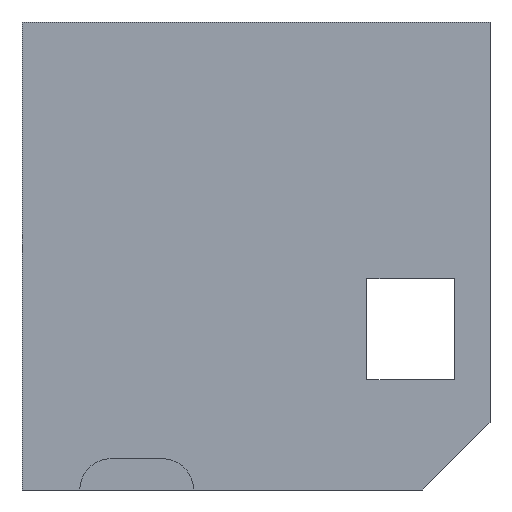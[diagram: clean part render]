
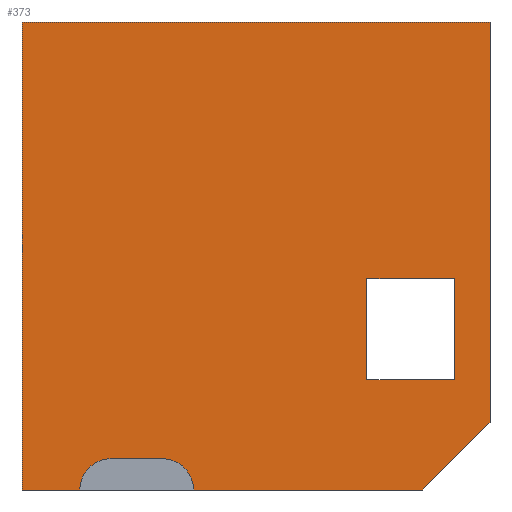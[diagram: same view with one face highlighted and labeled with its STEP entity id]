
A CAD part, left-side view. The second image highlights one B-rep face of the part: STEP entity #373.
In plain terms, the highlighted planar face has unit normal (-1, 0, 0).
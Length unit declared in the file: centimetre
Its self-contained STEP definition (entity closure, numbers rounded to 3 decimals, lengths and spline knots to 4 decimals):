
#5 = VERTEX_POINT ( 'NONE', #196 ) ;
#19 = DIRECTION ( 'NONE',  ( 0., 1., 0. ) ) ;
#41 = CARTESIAN_POINT ( 'NONE',  ( 0., 263.0807, 235.1883 ) ) ;
#42 = FACE_OUTER_BOUND ( 'NONE', #272, .T. ) ;
#53 = DIRECTION ( 'NONE',  ( 1., 0., 0. ) ) ;
#84 = ORIENTED_EDGE ( 'NONE', *, *, #478, .T. ) ;
#85 = EDGE_CURVE ( 'NONE', #537, #5, #955, .T. ) ;
#87 = VECTOR ( 'NONE', #398, 100. ) ;
#95 = ORIENTED_EDGE ( 'NONE', *, *, #171, .F. ) ;
#104 = ORIENTED_EDGE ( 'NONE', *, *, #252, .F. ) ;
#112 = VECTOR ( 'NONE', #1007, 100. ) ;
#124 = CARTESIAN_POINT ( 'NONE',  ( 0., 1000., 1000. ) ) ;
#155 = CARTESIAN_POINT ( 'NONE',  ( 0., 75.3041, 451.8279 ) ) ;
#156 = DIRECTION ( 'NONE',  ( 0., -1., 0. ) ) ;
#160 = ORIENTED_EDGE ( 'NONE', *, *, #446, .F. ) ;
#171 = EDGE_CURVE ( 'NONE', #759, #376, #717, .T. ) ;
#173 = VERTEX_POINT ( 'NONE', #640 ) ;
#196 = CARTESIAN_POINT ( 'NONE',  ( 0., 809.6023, 66.9636 ) ) ;
#203 = AXIS2_PLACEMENT_3D ( 'NONE', #744, #53, #402 ) ;
#215 = DIRECTION ( 'NONE',  ( 0., 0., -1. ) ) ;
#225 = VECTOR ( 'NONE', #264, 100. ) ;
#232 = LINE ( 'NONE', #124, #983 ) ;
#235 = EDGE_CURVE ( 'NONE', #439, #537, #319, .T. ) ;
#248 = LINE ( 'NONE', #587, #1017 ) ;
#252 = EDGE_CURVE ( 'NONE', #5, #490, #785, .T. ) ;
#264 = DIRECTION ( 'NONE',  ( 0., 1., 0. ) ) ;
#272 = EDGE_LOOP ( 'NONE', ( #1041, #359, #1124, #84, #95, #160, #755, #913, #104 ) ) ;
#298 = EDGE_CURVE ( 'NONE', #439, #403, #563, .T. ) ;
#318 = PLANE ( 'NONE',  #203 ) ;
#319 = CIRCLE ( 'NONE', #775, 66.9636 ) ;
#322 = CARTESIAN_POINT ( 'NONE',  ( 0., 0., 1000. ) ) ;
#329 = EDGE_CURVE ( 'NONE', #863, #407, #232, .T. ) ;
#337 = LINE ( 'NONE', #1118, #630 ) ;
#356 = EDGE_LOOP ( 'NONE', ( #605, #379, #425, #939 ) ) ;
#359 = ORIENTED_EDGE ( 'NONE', *, *, #235, .F. ) ;
#373 = ADVANCED_FACE ( 'NONE', ( #474, #42 ), #318, .F. ) ;
#376 = VERTEX_POINT ( 'NONE', #1094 ) ;
#378 = CARTESIAN_POINT ( 'NONE',  ( 0., 700.3897, 0. ) ) ;
#379 = ORIENTED_EDGE ( 'NONE', *, *, #1043, .F. ) ;
#388 = LINE ( 'NONE', #393, #702 ) ;
#390 = CARTESIAN_POINT ( 'NONE',  ( 0., 809.6023, 0. ) ) ;
#393 = CARTESIAN_POINT ( 'NONE',  ( 0., 75.3041, 235.1883 ) ) ;
#394 = EDGE_CURVE ( 'NONE', #407, #490, #248, .T. ) ;
#398 = DIRECTION ( 'NONE',  ( 0., 0., -1. ) ) ;
#401 = VECTOR ( 'NONE', #815, 100. ) ;
#402 = DIRECTION ( 'NONE',  ( 0., 0., -1. ) ) ;
#403 = VERTEX_POINT ( 'NONE', #676 ) ;
#407 = VERTEX_POINT ( 'NONE', #595 ) ;
#416 = LINE ( 'NONE', #771, #651 ) ;
#425 = ORIENTED_EDGE ( 'NONE', *, *, #674, .F. ) ;
#439 = VERTEX_POINT ( 'NONE', #936 ) ;
#446 = EDGE_CURVE ( 'NONE', #863, #759, #337, .T. ) ;
#465 = DIRECTION ( 'NONE',  ( 0., 0., -1. ) ) ;
#474 = FACE_BOUND ( 'NONE', #356, .T. ) ;
#478 = EDGE_CURVE ( 'NONE', #403, #376, #416, .T. ) ;
#490 = VERTEX_POINT ( 'NONE', #940 ) ;
#514 = CARTESIAN_POINT ( 'NONE',  ( 0., 75.3041, 235.1883 ) ) ;
#537 = VERTEX_POINT ( 'NONE', #711 ) ;
#540 = EDGE_CURVE ( 'NONE', #669, #899, #643, .T. ) ;
#563 = LINE ( 'NONE', #726, #112 ) ;
#587 = CARTESIAN_POINT ( 'NONE',  ( 0., 1000., 0. ) ) ;
#595 = CARTESIAN_POINT ( 'NONE',  ( 0., 1000., 0. ) ) ;
#605 = ORIENTED_EDGE ( 'NONE', *, *, #704, .F. ) ;
#628 = CARTESIAN_POINT ( 'NONE',  ( 0., 0., 1000. ) ) ;
#630 = VECTOR ( 'NONE', #683, 100. ) ;
#640 = CARTESIAN_POINT ( 'NONE',  ( 0., 263.0807, 235.1883 ) ) ;
#642 = DIRECTION ( 'NONE',  ( 0., -1., 0. ) ) ;
#643 = LINE ( 'NONE', #1067, #821 ) ;
#651 = VECTOR ( 'NONE', #681, 100. ) ;
#653 = DIRECTION ( 'NONE',  ( 0., 0., 1. ) ) ;
#661 = LINE ( 'NONE', #41, #87 ) ;
#669 = VERTEX_POINT ( 'NONE', #155 ) ;
#674 = EDGE_CURVE ( 'NONE', #899, #173, #661, .T. ) ;
#676 = CARTESIAN_POINT ( 'NONE',  ( 0., 143.3258, 0. ) ) ;
#681 = DIRECTION ( 'NONE',  ( 0., -0.707, 0.707 ) ) ;
#683 = DIRECTION ( 'NONE',  ( 0., -1., 0. ) ) ;
#694 = CARTESIAN_POINT ( 'NONE',  ( 0., 809.6023, 66.9636 ) ) ;
#702 = VECTOR ( 'NONE', #653, 100. ) ;
#704 = EDGE_CURVE ( 'NONE', #890, #669, #388, .T. ) ;
#711 = CARTESIAN_POINT ( 'NONE',  ( 0., 700.3897, 66.9636 ) ) ;
#717 = LINE ( 'NONE', #628, #401 ) ;
#726 = CARTESIAN_POINT ( 'NONE',  ( 0., 1000., 0. ) ) ;
#744 = CARTESIAN_POINT ( 'NONE',  ( 0., 1000., 1000. ) ) ;
#755 = ORIENTED_EDGE ( 'NONE', *, *, #329, .T. ) ;
#759 = VERTEX_POINT ( 'NONE', #322 ) ;
#771 = CARTESIAN_POINT ( 'NONE',  ( 0., 0., 143.3258 ) ) ;
#775 = AXIS2_PLACEMENT_3D ( 'NONE', #378, #907, #820 ) ;
#785 = CIRCLE ( 'NONE', #964, 66.9636 ) ;
#786 = VECTOR ( 'NONE', #642, 100. ) ;
#815 = DIRECTION ( 'NONE',  ( 0., 0., -1. ) ) ;
#820 = DIRECTION ( 'NONE',  ( 0., 0., -1. ) ) ;
#821 = VECTOR ( 'NONE', #19, 100. ) ;
#837 = DIRECTION ( 'NONE',  ( -1., 0., 0. ) ) ;
#863 = VERTEX_POINT ( 'NONE', #938 ) ;
#890 = VERTEX_POINT ( 'NONE', #514 ) ;
#898 = LINE ( 'NONE', #968, #786 ) ;
#899 = VERTEX_POINT ( 'NONE', #943 ) ;
#907 = DIRECTION ( 'NONE',  ( -1., 0., 0. ) ) ;
#913 = ORIENTED_EDGE ( 'NONE', *, *, #394, .T. ) ;
#936 = CARTESIAN_POINT ( 'NONE',  ( 0., 633.4261, 0. ) ) ;
#938 = CARTESIAN_POINT ( 'NONE',  ( 0., 1000., 1000. ) ) ;
#939 = ORIENTED_EDGE ( 'NONE', *, *, #540, .F. ) ;
#940 = CARTESIAN_POINT ( 'NONE',  ( 0., 876.5659, 0. ) ) ;
#943 = CARTESIAN_POINT ( 'NONE',  ( 0., 263.0807, 451.8279 ) ) ;
#955 = LINE ( 'NONE', #694, #225 ) ;
#964 = AXIS2_PLACEMENT_3D ( 'NONE', #390, #837, #465 ) ;
#968 = CARTESIAN_POINT ( 'NONE',  ( 0., 75.3041, 235.1883 ) ) ;
#983 = VECTOR ( 'NONE', #215, 100. ) ;
#1007 = DIRECTION ( 'NONE',  ( 0., -1., 0. ) ) ;
#1017 = VECTOR ( 'NONE', #156, 100. ) ;
#1041 = ORIENTED_EDGE ( 'NONE', *, *, #85, .F. ) ;
#1043 = EDGE_CURVE ( 'NONE', #173, #890, #898, .T. ) ;
#1067 = CARTESIAN_POINT ( 'NONE',  ( 0., 75.3041, 451.8279 ) ) ;
#1094 = CARTESIAN_POINT ( 'NONE',  ( 0., 0., 143.3258 ) ) ;
#1118 = CARTESIAN_POINT ( 'NONE',  ( 0., 1000., 1000. ) ) ;
#1124 = ORIENTED_EDGE ( 'NONE', *, *, #298, .T. ) ;
